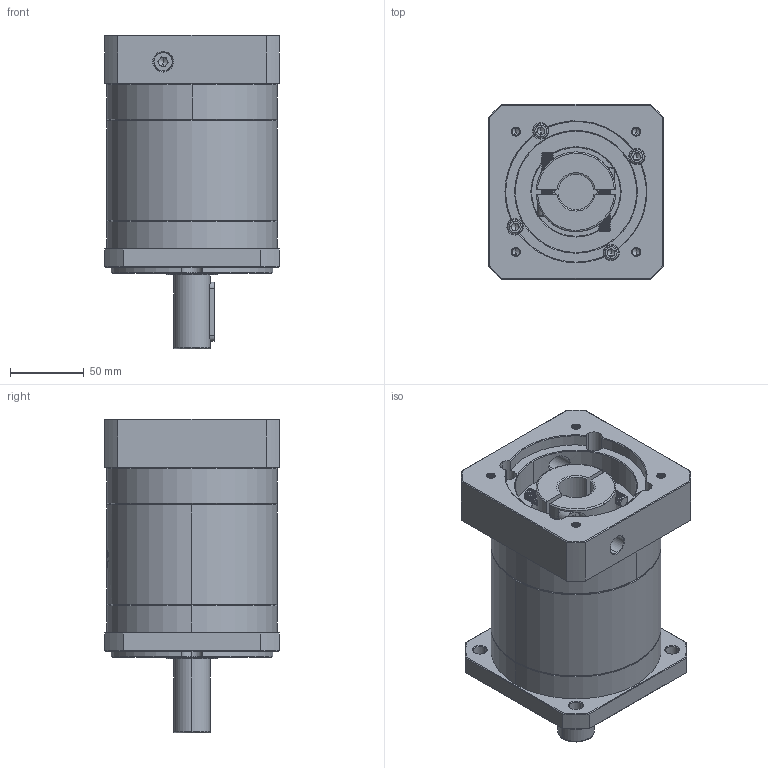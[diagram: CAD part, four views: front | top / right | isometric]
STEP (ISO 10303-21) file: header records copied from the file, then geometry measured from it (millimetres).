
FILE_DESCRIPTION (( 'STEP AP214' ), '1' );
FILE_NAME ('ZF120A-D25-L2-P2-24-95-115-M6.step', '2023-08-27T04:41:03', ( '' ), ( '' ), 'SwSTEP 2.0', 'SolidWorks 2016', '' );
FILE_SCHEMA (( 'AUTOMOTIVE_DESIGN' ));
Length unit declared in the file: millimetre
Products named in the file (1): ZF120A-D25-L2-P2-24-95-115-M6
Bounding box: 118 x 118 x 212 mm (x, y, z)
Volume: 1657439.4 mm3; surface area: 168377.4 mm2
Topology: 6 solids, 6 shells, 2237 faces, 5963 edges, 3827 vertices
Faces by surface type: plane 1034, bspline 439, cylinder 421, cone 343
Entity records: 122930 total; most frequent: CARTESIAN_POINT 48037, ORIENTED_EDGE 11866, DIRECTION 8622, EDGE_CURVE 5933, VERTEX_POINT 3827, LINE 3102, VECTOR 3102, AXIS2_PLACEMENT_3D 2760
